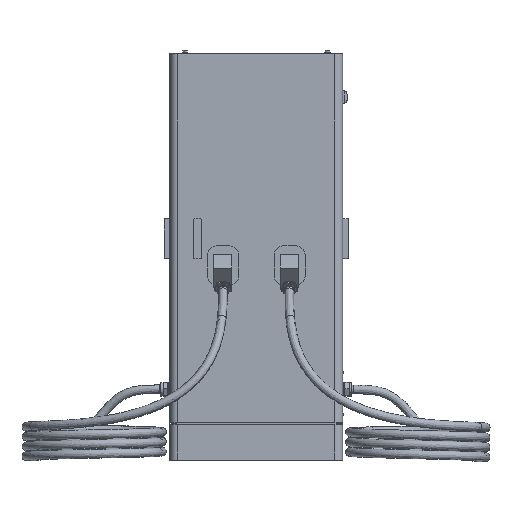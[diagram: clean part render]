
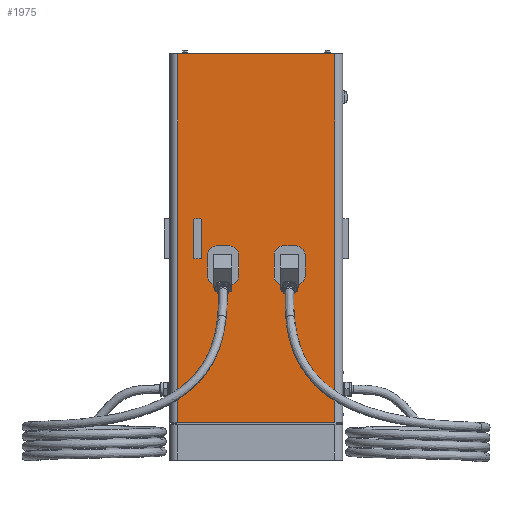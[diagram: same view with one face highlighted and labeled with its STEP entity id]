
A CAD part, top view. The second image highlights one B-rep face of the part: STEP entity #1975.
In plain terms, the highlighted planar face has unit normal (0, 0, 1).
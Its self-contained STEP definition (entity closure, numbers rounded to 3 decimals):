
#420=DIRECTION('',(1.,0.,0.));
#421=VECTOR('',#420,55.);
#422=CARTESIAN_POINT('',(187.87,871.077,469.5));
#423=LINE('',#422,#421);
#441=DIRECTION('',(-1.,0.,0.));
#442=VECTOR('',#441,637.);
#443=CARTESIAN_POINT('',(668.5,155.,469.5));
#444=LINE('',#443,#442);
#448=CARTESIAN_POINT('',(457.5,835.5,469.5));
#449=DIRECTION('',(0.,0.,1.));
#450=DIRECTION('',(0.,1.,0.));
#451=AXIS2_PLACEMENT_3D('',#448,#449,#450);
#456=CARTESIAN_POINT('',(457.5,748.5,469.5));
#457=DIRECTION('',(0.,0.,1.));
#458=DIRECTION('',(-1.,0.,0.));
#459=AXIS2_PLACEMENT_3D('',#456,#457,#458);
#464=CARTESIAN_POINT('',(512.5,748.5,469.5));
#465=DIRECTION('',(0.,0.,1.));
#466=DIRECTION('',(0.,-1.,0.));
#467=AXIS2_PLACEMENT_3D('',#464,#465,#466);
#472=CARTESIAN_POINT('',(512.5,835.5,469.5));
#473=DIRECTION('',(0.,0.,1.));
#474=DIRECTION('',(1.,0.,0.));
#475=AXIS2_PLACEMENT_3D('',#472,#473,#474);
#480=CARTESIAN_POINT('',(187.87,835.5,469.5));
#481=DIRECTION('',(0.,0.,1.));
#482=DIRECTION('',(0.,1.,0.));
#483=AXIS2_PLACEMENT_3D('',#480,#481,#482);
#488=CARTESIAN_POINT('',(187.87,748.5,469.5));
#489=DIRECTION('',(0.,0.,1.));
#490=DIRECTION('',(-1.,0.,0.));
#491=AXIS2_PLACEMENT_3D('',#488,#489,#490);
#496=CARTESIAN_POINT('',(242.87,748.5,469.5));
#497=DIRECTION('',(0.,0.,1.));
#498=DIRECTION('',(0.,-1.,0.));
#499=AXIS2_PLACEMENT_3D('',#496,#497,#498);
#504=CARTESIAN_POINT('',(242.87,835.5,469.5));
#505=DIRECTION('',(0.,0.,1.));
#506=DIRECTION('',(1.,0.,0.));
#507=AXIS2_PLACEMENT_3D('',#504,#505,#506);
#512=CARTESIAN_POINT('',(112.52,893.641,469.5));
#513=DIRECTION('',(0.,0.,1.));
#514=DIRECTION('',(-0.229,-0.973,0.));
#515=AXIS2_PLACEMENT_3D('',#512,#513,#514);
#520=CARTESIAN_POINT('',(129.713,820.681,469.5));
#521=CARTESIAN_POINT('',(129.715,822.623,469.5));
#522=CARTESIAN_POINT('',(129.728,837.179,469.5));
#523=CARTESIAN_POINT('',(129.732,864.324,469.5));
#524=CARTESIAN_POINT('',(129.704,902.115,469.5));
#525=CARTESIAN_POINT('',(129.622,939.86,469.5));
#526=CARTESIAN_POINT('',(129.49,965.937,469.5));
#527=CARTESIAN_POINT('',(129.384,979.425,469.5));
#528=CARTESIAN_POINT('',(129.377,980.347,469.5));
#533=CARTESIAN_POINT('',(112.525,868.084,469.5));
#534=DIRECTION('',(0.,0.,1.));
#535=DIRECTION('',(0.148,0.989,0.));
#536=AXIS2_PLACEMENT_3D('',#533,#534,#535);
#541=CARTESIAN_POINT('',(95.624,980.34,469.5));
#542=CARTESIAN_POINT('',(95.617,979.417,469.5));
#543=CARTESIAN_POINT('',(95.517,965.929,469.5));
#544=CARTESIAN_POINT('',(95.397,939.852,469.5));
#545=CARTESIAN_POINT('',(95.332,902.108,469.5));
#546=CARTESIAN_POINT('',(95.321,864.316,469.5));
#547=CARTESIAN_POINT('',(95.337,837.171,469.5));
#548=CARTESIAN_POINT('',(95.357,822.616,469.5));
#549=CARTESIAN_POINT('',(95.359,820.673,469.5));
#562=DIRECTION('',(-1.,0.,0.));
#563=VECTOR('',#562,637.);
#564=CARTESIAN_POINT('',(668.5,1650.,469.5));
#565=LINE('',#564,#563);
#605=DIRECTION('',(0.,1.,0.));
#606=VECTOR('',#605,1495.);
#607=CARTESIAN_POINT('',(668.5,155.,469.5));
#608=LINE('',#607,#606);
#647=DIRECTION('',(0.,-1.,0.));
#648=VECTOR('',#647,1495.);
#649=CARTESIAN_POINT('',(31.5,1650.,469.5));
#650=LINE('',#649,#648);
#677=DIRECTION('',(1.,0.,0.));
#678=VECTOR('',#677,55.);
#679=CARTESIAN_POINT('',(457.5,871.077,469.5));
#680=LINE('',#679,#678);
#698=DIRECTION('',(0.,-1.,0.));
#699=VECTOR('',#698,87.);
#700=CARTESIAN_POINT('',(548.077,835.5,469.5));
#701=LINE('',#700,#699);
#719=DIRECTION('',(-1.,0.,0.));
#720=VECTOR('',#719,55.);
#721=CARTESIAN_POINT('',(512.5,712.923,469.5));
#722=LINE('',#721,#720);
#740=DIRECTION('',(0.,1.,0.));
#741=VECTOR('',#740,87.);
#742=CARTESIAN_POINT('',(421.923,748.5,469.5));
#743=LINE('',#742,#741);
#1199=DIRECTION('',(0.,1.,0.));
#1200=VECTOR('',#1199,87.);
#1201=CARTESIAN_POINT('',(152.293,748.5,469.5));
#1202=LINE('',#1201,#1200);
#1220=DIRECTION('',(-1.,0.,0.));
#1221=VECTOR('',#1220,55.);
#1222=CARTESIAN_POINT('',(242.87,712.923,469.5));
#1223=LINE('',#1222,#1221);
#1241=DIRECTION('',(0.,-1.,0.));
#1242=VECTOR('',#1241,87.);
#1243=CARTESIAN_POINT('',(278.447,835.5,469.5));
#1244=LINE('',#1243,#1242);
#1463=CARTESIAN_POINT('',(242.87,871.077,469.5));
#1464=VERTEX_POINT('',#1463);
#1465=CARTESIAN_POINT('',(187.87,871.077,469.5));
#1466=VERTEX_POINT('',#1465);
#1467=CARTESIAN_POINT('',(278.447,835.5,469.5));
#1468=VERTEX_POINT('',#1467);
#1469=CARTESIAN_POINT('',(668.5,1650.,469.5));
#1470=CARTESIAN_POINT('',(31.5,1650.,469.5));
#1471=VERTEX_POINT('',#1469);
#1472=VERTEX_POINT('',#1470);
#1473=CARTESIAN_POINT('',(668.5,155.,469.5));
#1474=VERTEX_POINT('',#1473);
#1475=CARTESIAN_POINT('',(31.5,155.,469.5));
#1476=VERTEX_POINT('',#1475);
#1477=CARTESIAN_POINT('',(457.5,871.077,469.5));
#1478=CARTESIAN_POINT('',(512.5,871.077,469.5));
#1479=VERTEX_POINT('',#1477);
#1480=VERTEX_POINT('',#1478);
#1481=CARTESIAN_POINT('',(421.923,835.5,469.5));
#1482=VERTEX_POINT('',#1481);
#1483=CARTESIAN_POINT('',(421.923,748.5,469.5));
#1484=VERTEX_POINT('',#1483);
#1485=CARTESIAN_POINT('',(457.5,712.923,469.5));
#1486=VERTEX_POINT('',#1485);
#1487=CARTESIAN_POINT('',(512.5,712.923,469.5));
#1488=VERTEX_POINT('',#1487);
#1489=CARTESIAN_POINT('',(548.077,748.5,469.5));
#1490=VERTEX_POINT('',#1489);
#1491=CARTESIAN_POINT('',(548.077,835.5,469.5));
#1492=VERTEX_POINT('',#1491);
#1493=CARTESIAN_POINT('',(152.293,835.5,469.5));
#1494=VERTEX_POINT('',#1493);
#1495=CARTESIAN_POINT('',(152.293,748.5,469.5));
#1496=VERTEX_POINT('',#1495);
#1497=CARTESIAN_POINT('',(187.87,712.923,469.5));
#1498=VERTEX_POINT('',#1497);
#1499=CARTESIAN_POINT('',(242.87,712.923,469.5));
#1500=VERTEX_POINT('',#1499);
#1501=CARTESIAN_POINT('',(278.447,748.5,469.5));
#1502=VERTEX_POINT('',#1501);
#1503=CARTESIAN_POINT('',(95.359,820.673,469.5));
#1504=CARTESIAN_POINT('',(129.713,820.681,469.5));
#1505=VERTEX_POINT('',#1503);
#1506=VERTEX_POINT('',#1504);
#1507=VERTEX_POINT('',#528);
#1508=CARTESIAN_POINT('',(95.624,980.34,469.5));
#1509=VERTEX_POINT('',#1508);
#1916=CARTESIAN_POINT('',(31.5,1650.,469.5));
#1917=DIRECTION('',(0.,0.,1.));
#1918=DIRECTION('',(1.,0.,0.));
#1919=AXIS2_PLACEMENT_3D('',#1916,#1917,#1918);
#1920=PLANE('',#1919);
#1922=ORIENTED_EDGE('',*,*,#1921,.F.);
#1924=ORIENTED_EDGE('',*,*,#1923,.F.);
#1926=ORIENTED_EDGE('',*,*,#1925,.T.);
#1928=ORIENTED_EDGE('',*,*,#1927,.F.);
#1929=EDGE_LOOP('',(#1922,#1924,#1926,#1928));
#1930=FACE_OUTER_BOUND('',#1929,.F.);
#1932=ORIENTED_EDGE('',*,*,#1931,.F.);
#1934=ORIENTED_EDGE('',*,*,#1933,.T.);
#1936=ORIENTED_EDGE('',*,*,#1935,.F.);
#1938=ORIENTED_EDGE('',*,*,#1937,.T.);
#1940=ORIENTED_EDGE('',*,*,#1939,.F.);
#1942=ORIENTED_EDGE('',*,*,#1941,.T.);
#1944=ORIENTED_EDGE('',*,*,#1943,.F.);
#1946=ORIENTED_EDGE('',*,*,#1945,.T.);
#1947=EDGE_LOOP('',(#1932,#1934,#1936,#1938,#1940,#1942,#1944,#1946));
#1948=FACE_BOUND('',#1947,.F.);
#1949=ORIENTED_EDGE('',*,*,#1883,.F.);
#1951=ORIENTED_EDGE('',*,*,#1950,.T.);
#1953=ORIENTED_EDGE('',*,*,#1952,.F.);
#1955=ORIENTED_EDGE('',*,*,#1954,.T.);
#1957=ORIENTED_EDGE('',*,*,#1956,.F.);
#1959=ORIENTED_EDGE('',*,*,#1958,.T.);
#1961=ORIENTED_EDGE('',*,*,#1960,.F.);
#1962=ORIENTED_EDGE('',*,*,#1901,.T.);
#1963=EDGE_LOOP('',(#1949,#1951,#1953,#1955,#1957,#1959,#1961,#1962));
#1964=FACE_BOUND('',#1963,.F.);
#1966=ORIENTED_EDGE('',*,*,#1965,.T.);
#1968=ORIENTED_EDGE('',*,*,#1967,.T.);
#1970=ORIENTED_EDGE('',*,*,#1969,.T.);
#1972=ORIENTED_EDGE('',*,*,#1971,.T.);
#1973=EDGE_LOOP('',(#1966,#1968,#1970,#1972));
#1974=FACE_BOUND('',#1973,.F.);
#452=CIRCLE('',#451,35.577);
#460=CIRCLE('',#459,35.577);
#468=CIRCLE('',#467,35.577);
#476=CIRCLE('',#475,35.577);
#484=CIRCLE('',#483,35.577);
#492=CIRCLE('',#491,35.577);
#500=CIRCLE('',#499,35.577);
#508=CIRCLE('',#507,35.577);
#516=CIRCLE('',#515,74.959);
#529=B_SPLINE_CURVE_WITH_KNOTS('',3,(#520,#521,#522,#523,#524,#525,#526,#527,
#528),.UNSPECIFIED.,.F.,.F.,(4,1,1,1,1,1,4),(0.,0.037,
0.273,0.51,0.747,0.983,1.),
.UNSPECIFIED.);
#537=CIRCLE('',#536,113.521);
#550=B_SPLINE_CURVE_WITH_KNOTS('',3,(#541,#542,#543,#544,#545,#546,#547,#548,
#549),.UNSPECIFIED.,.F.,.F.,(4,1,1,1,1,1,4),(0.,0.017,
0.253,0.49,0.727,0.963,1.),
.UNSPECIFIED.);
#1883=EDGE_CURVE('',#1466,#1464,#423,.T.);
#1901=EDGE_CURVE('',#1468,#1464,#508,.T.);
#1921=EDGE_CURVE('',#1471,#1472,#565,.T.);
#1923=EDGE_CURVE('',#1474,#1471,#608,.T.);
#1925=EDGE_CURVE('',#1474,#1476,#444,.T.);
#1927=EDGE_CURVE('',#1472,#1476,#650,.T.);
#1931=EDGE_CURVE('',#1479,#1480,#680,.T.);
#1933=EDGE_CURVE('',#1479,#1482,#452,.T.);
#1935=EDGE_CURVE('',#1484,#1482,#743,.T.);
#1937=EDGE_CURVE('',#1484,#1486,#460,.T.);
#1939=EDGE_CURVE('',#1488,#1486,#722,.T.);
#1941=EDGE_CURVE('',#1488,#1490,#468,.T.);
#1943=EDGE_CURVE('',#1492,#1490,#701,.T.);
#1945=EDGE_CURVE('',#1492,#1480,#476,.T.);
#1950=EDGE_CURVE('',#1466,#1494,#484,.T.);
#1952=EDGE_CURVE('',#1496,#1494,#1202,.T.);
#1954=EDGE_CURVE('',#1496,#1498,#492,.T.);
#1956=EDGE_CURVE('',#1500,#1498,#1223,.T.);
#1958=EDGE_CURVE('',#1500,#1502,#500,.T.);
#1960=EDGE_CURVE('',#1468,#1502,#1244,.T.);
#1965=EDGE_CURVE('',#1505,#1506,#516,.T.);
#1967=EDGE_CURVE('',#1506,#1507,#529,.T.);
#1969=EDGE_CURVE('',#1507,#1509,#537,.T.);
#1971=EDGE_CURVE('',#1509,#1505,#550,.T.);
#1975=ADVANCED_FACE('',(#1930,#1948,#1964,#1974),#1920,.T.);
